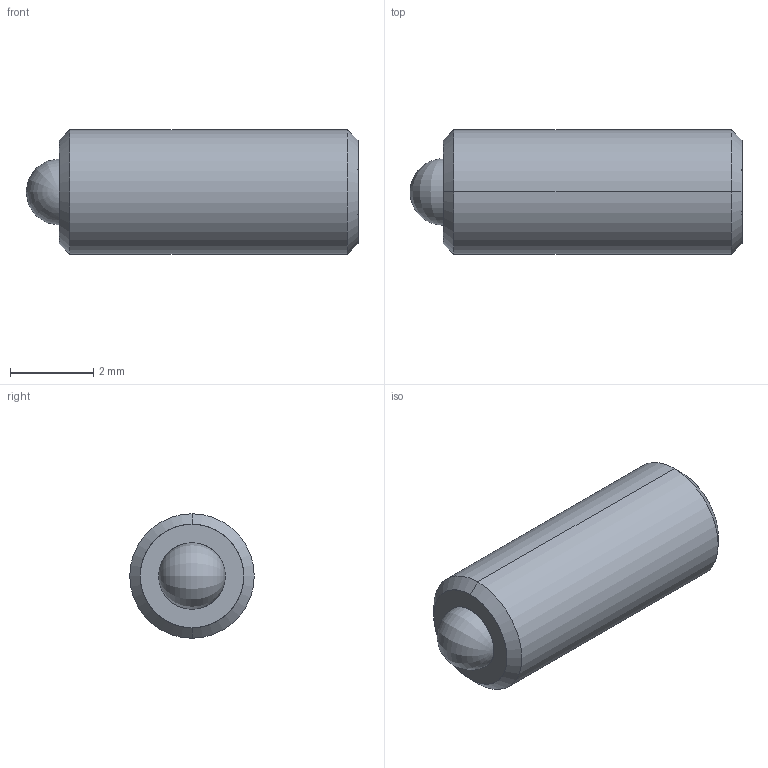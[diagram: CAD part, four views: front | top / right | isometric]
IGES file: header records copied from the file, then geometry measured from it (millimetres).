
Start section: SolidWorks IGES file using analytic representation for surfaces
Global section: file name: C:\Users\workpc\Desktop\KMA Solidworks\TS3-25-08.IGS; native system: SolidWorks 2013; preprocessor: SolidWorks 2013; author: workpc; date: 130213.110932; units: millimetre
Bounding box: 8 x 3 x 3 mm (x, y, z)
Surface area: 101.5 mm2 (no closed solid volume)
Topology: 0 solids, 0 shells, 20 faces, 172 edges, 168 vertices
Faces by surface type: revolution 10, bspline 10
